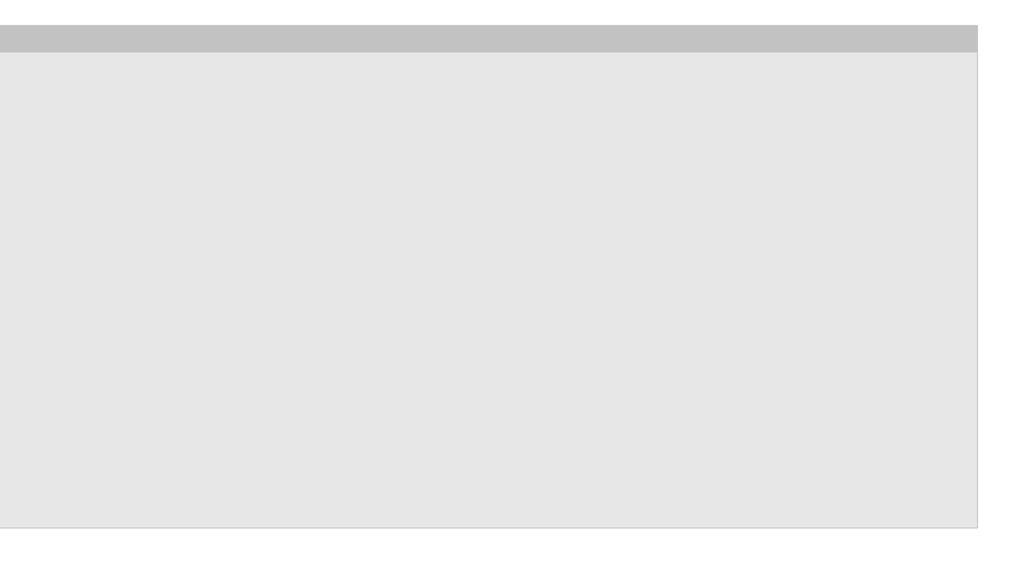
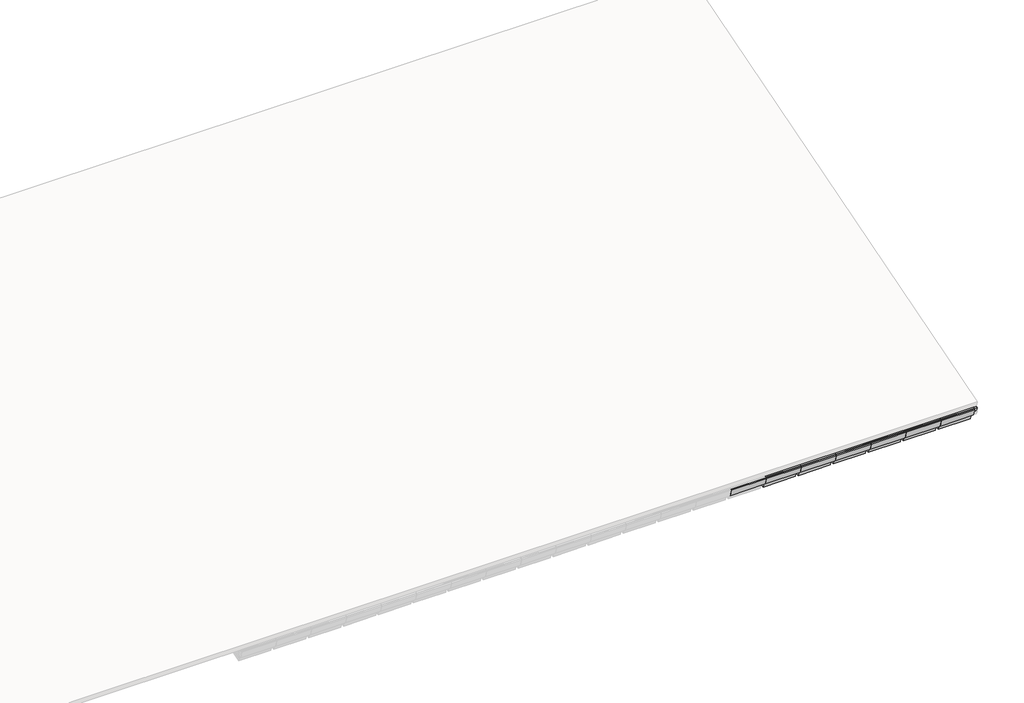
# One storey, part 44 of 57: 77 members, 45 plates.
"""IFC4 building model written with IfcOpenShell, lengths in millimetres."""

from ifc_helpers import new_model, si_unit, origin, place, context, project, spatial, transform, mapped, element, save
from components import rectangular_mullion_59984080, rectangular_mullion_71c73389, rectangular_mullion_e3e5c75d, rectangular_mullion_2d2423ea, rectangular_mullion_4162b89b, rectangular_mullion_883ae41b, rectangular_mullion_caibro_e4384bba, rectangular_mullion_caibro_f55aeefc, rectangular_mullion_caibro_7d910be2, rectangular_mullion_caibro_0993a3cf, empty_system_panel_vazio_178faf58, empty_system_panel_vazio_2c78850d

model = new_model("IFC4")

# Units and contexts
model_context = context("Model", 3, world=origin())
ifc_project = project(units=[si_unit("LENGTHUNIT", "METRE", prefix="MILLI")], contexts=[model_context])

# Site, building, storey
site = spatial("IfcSite", under=ifc_project)
building = spatial("IfcBuilding", under=site)
storey = spatial("IfcBuildingStorey", under=building, Name="Nível 2", Elevation=4100.0)

# Members
placement = place(None, origin())
rectangular_mullion_shape = rectangular_mullion_59984080(model_context)
element("IfcMember", 1, ObjectType="Rectangular Mullion : Ripa", at=placement, inside=storey, context=model_context, shape_type="MappedRepresentation", body=[
    mapped(rectangular_mullion_shape, transform((39391.1303069, 7422.2287521, 3376.7178042), x_axis=(0.0, 0.9578262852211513, 0.2873478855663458), y_axis=(0.0, 0.2873478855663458, -0.9578262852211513), z_axis=(-1.0, 0.0, 0.0))),
])
element("IfcMember", 2, ObjectType="Rectangular Mullion : Ripa", at=placement, inside=storey, context=model_context, shape_type="MappedRepresentation", body=[
    mapped(rectangular_mullion_shape, transform((39988.1850634, 7422.2287521, 3376.7178042), x_axis=(0.0, 0.9578262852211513, 0.2873478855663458), y_axis=(0.0, 0.2873478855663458, -0.9578262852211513), z_axis=(-1.0, 0.0, 0.0))),
])
element("IfcMember", 3, ObjectType="Rectangular Mullion : Ripa", at=placement, inside=storey, context=model_context, shape_type="MappedRepresentation", body=[
    mapped(rectangular_mullion_shape, transform((40585.2398198, 7422.2287521, 3376.7178042), x_axis=(0.0, 0.9578262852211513, 0.2873478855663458), y_axis=(0.0, 0.2873478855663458, -0.9578262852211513), z_axis=(-1.0, 0.0, 0.0))),
])
element("IfcMember", 4, ObjectType="Rectangular Mullion : Ripa", at=placement, inside=storey, context=model_context, shape_type="MappedRepresentation", body=[
    mapped(rectangular_mullion_shape, transform((41182.2945762, 7422.2287521, 3376.7178042), x_axis=(0.0, 0.9578262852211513, 0.2873478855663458), y_axis=(0.0, 0.2873478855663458, -0.9578262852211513), z_axis=(-1.0, 0.0, 0.0))),
])
element("IfcMember", 5, ObjectType="Rectangular Mullion : Ripa", at=placement, inside=storey, context=model_context, shape_type="MappedRepresentation", body=[
    mapped(rectangular_mullion_shape, transform((41779.3493326, 7422.2287521, 3376.7178042), x_axis=(0.0, 0.9578262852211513, 0.2873478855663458), y_axis=(0.0, 0.2873478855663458, -0.9578262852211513), z_axis=(-1.0, 0.0, 0.0))),
])
element("IfcMember", 6, ObjectType="Rectangular Mullion : Ripa", at=placement, inside=storey, context=model_context, shape_type="MappedRepresentation", body=[
    mapped(rectangular_mullion_shape, transform((39391.1303069, 7792.4060108, 3487.7709818), x_axis=(0.0, 0.9578262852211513, 0.2873478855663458), y_axis=(0.0, 0.2873478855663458, -0.9578262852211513), z_axis=(-1.0, 0.0, 0.0))),
])
element("IfcMember", 7, ObjectType="Rectangular Mullion : Ripa", at=placement, inside=storey, context=model_context, shape_type="MappedRepresentation", body=[
    mapped(rectangular_mullion_shape, transform((39988.1850634, 7792.4060108, 3487.7709818), x_axis=(0.0, 0.9578262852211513, 0.2873478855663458), y_axis=(0.0, 0.2873478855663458, -0.9578262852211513), z_axis=(-1.0, 0.0, 0.0))),
])
element("IfcMember", 8, ObjectType="Rectangular Mullion : Ripa", at=placement, inside=storey, context=model_context, shape_type="MappedRepresentation", body=[
    mapped(rectangular_mullion_shape, transform((40585.2398198, 7792.4060108, 3487.7709818), x_axis=(0.0, 0.9578262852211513, 0.2873478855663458), y_axis=(0.0, 0.2873478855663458, -0.9578262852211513), z_axis=(-1.0, 0.0, 0.0))),
])
element("IfcMember", 9, ObjectType="Rectangular Mullion : Ripa", at=placement, inside=storey, context=model_context, shape_type="MappedRepresentation", body=[
    mapped(rectangular_mullion_shape, transform((41182.2945762, 7792.4060108, 3487.7709818), x_axis=(0.0, 0.9578262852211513, 0.2873478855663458), y_axis=(0.0, 0.2873478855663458, -0.9578262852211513), z_axis=(-1.0, 0.0, 0.0))),
])
element("IfcMember", 10, ObjectType="Rectangular Mullion : Ripa", at=placement, inside=storey, context=model_context, shape_type="MappedRepresentation", body=[
    mapped(rectangular_mullion_shape, transform((41779.3493326, 7792.4060108, 3487.7709818), x_axis=(0.0, 0.9578262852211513, 0.2873478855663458), y_axis=(0.0, 0.2873478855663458, -0.9578262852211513), z_axis=(-1.0, 0.0, 0.0))),
])
element("IfcMember", 11, ObjectType="Rectangular Mullion : Ripa", at=placement, inside=storey, context=model_context, shape_type="MappedRepresentation", body=[
    mapped(rectangular_mullion_shape, transform((32226.4732298, 8162.5832694, 3598.8241594), x_axis=(0.0, 0.9578262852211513, 0.2873478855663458), y_axis=(0.0, 0.2873478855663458, -0.9578262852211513), z_axis=(-1.0, 0.0, 0.0))),
])
element("IfcMember", 12, ObjectType="Rectangular Mullion : Ripa", at=placement, inside=storey, context=model_context, shape_type="MappedRepresentation", body=[
    mapped(rectangular_mullion_shape, transform((32823.5279863, 8162.5832694, 3598.8241594), x_axis=(0.0, 0.9578262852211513, 0.2873478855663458), y_axis=(0.0, 0.2873478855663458, -0.9578262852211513), z_axis=(-1.0, 0.0, 0.0))),
])
element("IfcMember", 13, ObjectType="Rectangular Mullion : Ripa", at=placement, inside=storey, context=model_context, shape_type="MappedRepresentation", body=[
    mapped(rectangular_mullion_shape, transform((33420.5827427, 8162.5832694, 3598.8241594), x_axis=(0.0, 0.9578262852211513, 0.2873478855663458), y_axis=(0.0, 0.2873478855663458, -0.9578262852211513), z_axis=(-1.0, 0.0, 0.0))),
])
element("IfcMember", 14, ObjectType="Rectangular Mullion : Ripa", at=placement, inside=storey, context=model_context, shape_type="MappedRepresentation", body=[
    mapped(rectangular_mullion_shape, transform((32226.4732298, 8532.7605281, 3709.877337), x_axis=(0.0, 0.9578262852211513, 0.2873478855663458), y_axis=(0.0, 0.2873478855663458, -0.9578262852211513), z_axis=(-1.0, 0.0, 0.0))),
])
element("IfcMember", 15, ObjectType="Rectangular Mullion : Ripa", at=placement, inside=storey, context=model_context, shape_type="MappedRepresentation", body=[
    mapped(rectangular_mullion_shape, transform((32823.5279863, 8532.7605281, 3709.877337), x_axis=(0.0, 0.9578262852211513, 0.2873478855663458), y_axis=(0.0, 0.2873478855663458, -0.9578262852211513), z_axis=(-1.0, 0.0, 0.0))),
])
element("IfcMember", 16, ObjectType="Rectangular Mullion : Ripa", at=placement, inside=storey, context=model_context, shape_type="MappedRepresentation", body=[
    mapped(rectangular_mullion_shape, transform((33420.5827427, 8532.7605281, 3709.877337), x_axis=(0.0, 0.9578262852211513, 0.2873478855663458), y_axis=(0.0, 0.2873478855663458, -0.9578262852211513), z_axis=(-1.0, 0.0, 0.0))),
])
element("IfcMember", 17, ObjectType="Rectangular Mullion : Ripa", at=placement, inside=storey, context=model_context, shape_type="MappedRepresentation", body=[
    mapped(rectangular_mullion_shape, transform((32226.4732298, 8902.9377868, 3820.9305146), x_axis=(0.0, 0.9578262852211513, 0.2873478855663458), y_axis=(0.0, 0.2873478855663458, -0.9578262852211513), z_axis=(-1.0, 0.0, 0.0))),
])
element("IfcMember", 18, ObjectType="Rectangular Mullion : Ripa", at=placement, inside=storey, context=model_context, shape_type="MappedRepresentation", body=[
    mapped(rectangular_mullion_shape, transform((32823.5279863, 8902.9377868, 3820.9305146), x_axis=(0.0, 0.9578262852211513, 0.2873478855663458), y_axis=(0.0, 0.2873478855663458, -0.9578262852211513), z_axis=(-1.0, 0.0, 0.0))),
])
element("IfcMember", 19, ObjectType="Rectangular Mullion : Ripa", at=placement, inside=storey, context=model_context, shape_type="MappedRepresentation", body=[
    mapped(rectangular_mullion_shape, transform((33420.5827427, 8902.9377868, 3820.9305146), x_axis=(0.0, 0.9578262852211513, 0.2873478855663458), y_axis=(0.0, 0.2873478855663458, -0.9578262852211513), z_axis=(-1.0, 0.0, 0.0))),
])
element("IfcMember", 20, ObjectType="Rectangular Mullion : Ripa", at=placement, inside=storey, context=model_context, shape_type="MappedRepresentation", body=[
    mapped(rectangular_mullion_shape, transform((32226.4732298, 9273.1150454, 3931.9836922), x_axis=(0.0, 0.9578262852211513, 0.2873478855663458), y_axis=(0.0, 0.2873478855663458, -0.9578262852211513), z_axis=(-1.0, 0.0, 0.0))),
])
element("IfcMember", 21, ObjectType="Rectangular Mullion : Ripa", at=placement, inside=storey, context=model_context, shape_type="MappedRepresentation", body=[
    mapped(rectangular_mullion_shape, transform((32823.5279863, 9273.1150454, 3931.9836922), x_axis=(0.0, 0.9578262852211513, 0.2873478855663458), y_axis=(0.0, 0.2873478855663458, -0.9578262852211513), z_axis=(-1.0, 0.0, 0.0))),
])
element("IfcMember", 22, ObjectType="Rectangular Mullion : Ripa", at=placement, inside=storey, context=model_context, shape_type="MappedRepresentation", body=[
    mapped(rectangular_mullion_shape, transform((33420.5827427, 9273.1150454, 3931.9836922), x_axis=(0.0, 0.9578262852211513, 0.2873478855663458), y_axis=(0.0, 0.2873478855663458, -0.9578262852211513), z_axis=(-1.0, 0.0, 0.0))),
])
element("IfcMember", 23, ObjectType="Rectangular Mullion : Ripa", at=placement, inside=storey, context=model_context, shape_type="MappedRepresentation", body=[
    mapped(rectangular_mullion_shape, transform((32226.4732298, 9643.2923041, 4043.0368698), x_axis=(0.0, 0.9578262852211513, 0.2873478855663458), y_axis=(0.0, 0.2873478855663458, -0.9578262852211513), z_axis=(-1.0, 0.0, 0.0))),
])
element("IfcMember", 24, ObjectType="Rectangular Mullion : Ripa", at=placement, inside=storey, context=model_context, shape_type="MappedRepresentation", body=[
    mapped(rectangular_mullion_shape, transform((32823.5279863, 9643.2923041, 4043.0368698), x_axis=(0.0, 0.9578262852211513, 0.2873478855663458), y_axis=(0.0, 0.2873478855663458, -0.9578262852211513), z_axis=(-1.0, 0.0, 0.0))),
])
element("IfcMember", 25, ObjectType="Rectangular Mullion : Ripa", at=placement, inside=storey, context=model_context, shape_type="MappedRepresentation", body=[
    mapped(rectangular_mullion_shape, transform((33420.5827427, 9643.2923041, 4043.0368698), x_axis=(0.0, 0.9578262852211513, 0.2873478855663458), y_axis=(0.0, 0.2873478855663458, -0.9578262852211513), z_axis=(-1.0, 0.0, 0.0))),
])
rectangular_mullion_2_shape = rectangular_mullion_71c73389(model_context)
element("IfcMember", 26, ObjectType="Rectangular Mullion : Ripa", at=placement, inside=storey, context=model_context, shape_type="MappedRepresentation", body=[
    mapped(rectangular_mullion_2_shape, transform((42326.4040894, 7004.1601792, 3251.2972323), x_axis=(0.0, -0.9578262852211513, -0.2873478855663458), y_axis=(0.0, 0.2873478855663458, -0.9578262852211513), z_axis=(1.0, 0.0, 0.0))),
])
rectangular_mullion_3_shape = rectangular_mullion_e3e5c75d(model_context)
element("IfcMember", 27, ObjectType="Rectangular Mullion : Ripa", at=placement, inside=storey, context=model_context, shape_type="MappedRepresentation", body=[
    mapped(rectangular_mullion_3_shape, transform((39366.1303069, 7004.1601792, 3251.2972323), x_axis=(0.0, -0.9578262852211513, -0.2873478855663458), y_axis=(0.0, 0.2873478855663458, -0.9578262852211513), z_axis=(1.0, 0.0, 0.0))),
])
element("IfcMember", 28, ObjectType="Rectangular Mullion : Ripa", at=placement, inside=storey, context=model_context, shape_type="MappedRepresentation", body=[
    mapped(rectangular_mullion_3_shape, transform((39963.1850634, 7004.1601792, 3251.2972323), x_axis=(0.0, -0.9578262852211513, -0.2873478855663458), y_axis=(0.0, 0.2873478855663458, -0.9578262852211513), z_axis=(1.0, 0.0, 0.0))),
])
element("IfcMember", 29, ObjectType="Rectangular Mullion : Ripa", at=placement, inside=storey, context=model_context, shape_type="MappedRepresentation", body=[
    mapped(rectangular_mullion_3_shape, transform((40560.2398198, 7004.1601792, 3251.2972323), x_axis=(0.0, -0.9578262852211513, -0.2873478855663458), y_axis=(0.0, 0.2873478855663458, -0.9578262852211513), z_axis=(1.0, 0.0, 0.0))),
])
element("IfcMember", 30, ObjectType="Rectangular Mullion : Ripa", at=placement, inside=storey, context=model_context, shape_type="MappedRepresentation", body=[
    mapped(rectangular_mullion_3_shape, transform((41157.2945762, 7004.1601792, 3251.2972323), x_axis=(0.0, -0.9578262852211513, -0.2873478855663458), y_axis=(0.0, 0.2873478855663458, -0.9578262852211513), z_axis=(1.0, 0.0, 0.0))),
])
element("IfcMember", 31, ObjectType="Rectangular Mullion : Ripa", at=placement, inside=storey, context=model_context, shape_type="MappedRepresentation", body=[
    mapped(rectangular_mullion_3_shape, transform((41754.3493326, 7004.1601792, 3251.2972323), x_axis=(0.0, -0.9578262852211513, -0.2873478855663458), y_axis=(0.0, 0.2873478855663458, -0.9578262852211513), z_axis=(1.0, 0.0, 0.0))),
])
rectangular_mullion_4_shape = rectangular_mullion_2d2423ea(model_context)
element("IfcMember", 32, ObjectType="Rectangular Mullion : Terça", at=placement, inside=storey, context=model_context, shape_type="MappedRepresentation", body=[
    mapped(rectangular_mullion_4_shape, transform((32226.4732298, 9159.0196393, 3835.1132313), x_axis=(0.0, 0.9578262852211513, 0.2873478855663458), y_axis=(0.0, 0.2873478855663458, -0.9578262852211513), z_axis=(-1.0, 0.0, 0.0))),
])
element("IfcMember", 33, ObjectType="Rectangular Mullion : Terça", at=placement, inside=storey, context=model_context, shape_type="MappedRepresentation", body=[
    mapped(rectangular_mullion_4_shape, transform((32823.5279863, 9159.0196393, 3835.1132313), x_axis=(0.0, 0.9578262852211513, 0.2873478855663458), y_axis=(0.0, 0.2873478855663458, -0.9578262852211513), z_axis=(-1.0, 0.0, 0.0))),
])
element("IfcMember", 34, ObjectType="Rectangular Mullion : Terça", at=placement, inside=storey, context=model_context, shape_type="MappedRepresentation", body=[
    mapped(rectangular_mullion_4_shape, transform((33420.5827427, 9159.0196393, 3835.1132313), x_axis=(0.0, 0.9578262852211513, 0.2873478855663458), y_axis=(0.0, 0.2873478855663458, -0.9578262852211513), z_axis=(-1.0, 0.0, 0.0))),
])
rectangular_mullion_5_shape = rectangular_mullion_4162b89b(model_context)
element("IfcMember", 35, ObjectType="Rectangular Mullion : Terça", at=placement, inside=storey, context=model_context, shape_type="MappedRepresentation", body=[
    mapped(rectangular_mullion_5_shape, transform((42326.4040894, 7004.1601792, 3188.6553932), x_axis=(0.0, -0.9578262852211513, -0.2873478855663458), y_axis=(0.0, 0.2873478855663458, -0.9578262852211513), z_axis=(1.0, 0.0, 0.0))),
])
rectangular_mullion_6_shape = rectangular_mullion_883ae41b(model_context)
element("IfcMember", 36, ObjectType="Rectangular Mullion : Terça", at=placement, inside=storey, context=model_context, shape_type="MappedRepresentation", body=[
    mapped(rectangular_mullion_6_shape, transform((38769.0755505, 7004.1601792, 3188.6553932), x_axis=(0.0, -0.9578262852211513, -0.2873478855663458), y_axis=(0.0, 0.2873478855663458, -0.9578262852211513), z_axis=(1.0, 0.0, 0.0))),
])
element("IfcMember", 37, ObjectType="Rectangular Mullion : Terça", at=placement, inside=storey, context=model_context, shape_type="MappedRepresentation", body=[
    mapped(rectangular_mullion_6_shape, transform((39366.1303069, 7004.1601792, 3188.6553932), x_axis=(0.0, -0.9578262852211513, -0.2873478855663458), y_axis=(0.0, 0.2873478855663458, -0.9578262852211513), z_axis=(1.0, 0.0, 0.0))),
])
element("IfcMember", 38, ObjectType="Rectangular Mullion : Terça", at=placement, inside=storey, context=model_context, shape_type="MappedRepresentation", body=[
    mapped(rectangular_mullion_6_shape, transform((39963.1850634, 7004.1601792, 3188.6553932), x_axis=(0.0, -0.9578262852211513, -0.2873478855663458), y_axis=(0.0, 0.2873478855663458, -0.9578262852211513), z_axis=(1.0, 0.0, 0.0))),
])
element("IfcMember", 39, ObjectType="Rectangular Mullion : Terça", at=placement, inside=storey, context=model_context, shape_type="MappedRepresentation", body=[
    mapped(rectangular_mullion_6_shape, transform((40560.2398198, 7004.1601792, 3188.6553932), x_axis=(0.0, -0.9578262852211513, -0.2873478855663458), y_axis=(0.0, 0.2873478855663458, -0.9578262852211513), z_axis=(1.0, 0.0, 0.0))),
])
element("IfcMember", 40, ObjectType="Rectangular Mullion : Terça", at=placement, inside=storey, context=model_context, shape_type="MappedRepresentation", body=[
    mapped(rectangular_mullion_6_shape, transform((41157.2945762, 7004.1601792, 3188.6553932), x_axis=(0.0, -0.9578262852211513, -0.2873478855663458), y_axis=(0.0, 0.2873478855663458, -0.9578262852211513), z_axis=(1.0, 0.0, 0.0))),
])
element("IfcMember", 41, ObjectType="Rectangular Mullion : Terça", at=placement, inside=storey, context=model_context, shape_type="MappedRepresentation", body=[
    mapped(rectangular_mullion_6_shape, transform((41754.3493326, 7004.1601792, 3188.6553932), x_axis=(0.0, -0.9578262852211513, -0.2873478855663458), y_axis=(0.0, 0.2873478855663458, -0.9578262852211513), z_axis=(1.0, 0.0, 0.0))),
])
rectangular_mullion_caibro_shape = rectangular_mullion_caibro_e4384bba(model_context)
element("IfcMember", 42, ObjectType="Rectangular Mullion : Caibro", at=placement, inside=storey, context=model_context, shape_type="MappedRepresentation", body=[
    mapped(rectangular_mullion_caibro_shape, transform((39366.1303069, 7422.2287521, 3376.7178042), x_axis=(1.0, 0.0, 0.0), y_axis=(0.0, 0.2873478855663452, -0.9578262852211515), z_axis=(0.0, 0.9578262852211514, 0.28734788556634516))),
])
element("IfcMember", 43, ObjectType="Rectangular Mullion : Caibro", at=placement, inside=storey, context=model_context, shape_type="MappedRepresentation", body=[
    mapped(rectangular_mullion_caibro_shape, transform((39963.1850634, 7422.2287521, 3376.7178042), x_axis=(1.0, 0.0, 0.0), y_axis=(0.0, 0.2873478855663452, -0.9578262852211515), z_axis=(0.0, 0.9578262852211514, 0.28734788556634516))),
])
element("IfcMember", 44, ObjectType="Rectangular Mullion : Caibro", at=placement, inside=storey, context=model_context, shape_type="MappedRepresentation", body=[
    mapped(rectangular_mullion_caibro_shape, transform((40560.2398198, 7422.2287521, 3376.7178042), x_axis=(1.0, 0.0, 0.0), y_axis=(0.0, 0.2873478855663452, -0.9578262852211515), z_axis=(0.0, 0.9578262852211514, 0.28734788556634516))),
])
element("IfcMember", 45, ObjectType="Rectangular Mullion : Caibro", at=placement, inside=storey, context=model_context, shape_type="MappedRepresentation", body=[
    mapped(rectangular_mullion_caibro_shape, transform((41157.2945762, 7422.2287521, 3376.7178042), x_axis=(1.0, 0.0, 0.0), y_axis=(0.0, 0.2873478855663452, -0.9578262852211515), z_axis=(0.0, 0.9578262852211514, 0.28734788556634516))),
])
element("IfcMember", 46, ObjectType="Rectangular Mullion : Caibro", at=placement, inside=storey, context=model_context, shape_type="MappedRepresentation", body=[
    mapped(rectangular_mullion_caibro_shape, transform((41754.3493326, 7422.2287521, 3376.7178042), x_axis=(1.0, 0.0, 0.0), y_axis=(0.0, 0.2873478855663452, -0.9578262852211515), z_axis=(0.0, 0.9578262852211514, 0.28734788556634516))),
])
element("IfcMember", 47, ObjectType="Rectangular Mullion : Caibro", at=placement, inside=storey, context=model_context, shape_type="MappedRepresentation", body=[
    mapped(rectangular_mullion_caibro_shape, transform((32201.4732298, 8162.5832694, 3598.8241594), x_axis=(1.0, 0.0, 0.0), y_axis=(0.0, 0.2873478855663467, -0.9578262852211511), z_axis=(0.0, 0.9578262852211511, 0.2873478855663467))),
])
element("IfcMember", 48, ObjectType="Rectangular Mullion : Caibro", at=placement, inside=storey, context=model_context, shape_type="MappedRepresentation", body=[
    mapped(rectangular_mullion_caibro_shape, transform((32201.4732298, 8532.7605281, 3709.877337), x_axis=(1.0, 0.0, 0.0), y_axis=(0.0, 0.2873478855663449, -0.9578262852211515), z_axis=(0.0, 0.9578262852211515, 0.2873478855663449))),
])
element("IfcMember", 49, ObjectType="Rectangular Mullion : Caibro", at=placement, inside=storey, context=model_context, shape_type="MappedRepresentation", body=[
    mapped(rectangular_mullion_caibro_shape, transform((32201.4732298, 8902.9377868, 3820.9305146), x_axis=(1.0, 0.0, 0.0), y_axis=(0.0, 0.2873478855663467, -0.9578262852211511), z_axis=(0.0, 0.9578262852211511, 0.2873478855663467))),
])
element("IfcMember", 50, ObjectType="Rectangular Mullion : Caibro", at=placement, inside=storey, context=model_context, shape_type="MappedRepresentation", body=[
    mapped(rectangular_mullion_caibro_shape, transform((32201.4732298, 9273.1150454, 3931.9836922), x_axis=(1.0, 0.0, 0.0), y_axis=(0.0, 0.2873478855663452, -0.9578262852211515), z_axis=(0.0, 0.9578262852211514, 0.28734788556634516))),
])
element("IfcMember", 51, ObjectType="Rectangular Mullion : Caibro", at=placement, inside=storey, context=model_context, shape_type="MappedRepresentation", body=[
    mapped(rectangular_mullion_caibro_shape, transform((32201.4732298, 9643.2923041, 4043.0368698), x_axis=(1.0, 0.0, 0.0), y_axis=(0.0, 0.28734788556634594, -0.9578262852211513), z_axis=(0.0, 0.9578262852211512, 0.2873478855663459))),
])
element("IfcMember", 52, ObjectType="Rectangular Mullion : Caibro", at=placement, inside=storey, context=model_context, shape_type="MappedRepresentation", body=[
    mapped(rectangular_mullion_caibro_shape, transform((32798.5279863, 8162.5832694, 3598.8241594), x_axis=(1.0, 0.0, 0.0), y_axis=(0.0, 0.2873478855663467, -0.9578262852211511), z_axis=(0.0, 0.9578262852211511, 0.2873478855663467))),
])
element("IfcMember", 53, ObjectType="Rectangular Mullion : Caibro", at=placement, inside=storey, context=model_context, shape_type="MappedRepresentation", body=[
    mapped(rectangular_mullion_caibro_shape, transform((32798.5279863, 8532.7605281, 3709.877337), x_axis=(1.0, 0.0, 0.0), y_axis=(0.0, 0.2873478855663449, -0.9578262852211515), z_axis=(0.0, 0.9578262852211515, 0.2873478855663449))),
])
element("IfcMember", 54, ObjectType="Rectangular Mullion : Caibro", at=placement, inside=storey, context=model_context, shape_type="MappedRepresentation", body=[
    mapped(rectangular_mullion_caibro_shape, transform((32798.5279863, 8902.9377868, 3820.9305146), x_axis=(1.0, 0.0, 0.0), y_axis=(0.0, 0.2873478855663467, -0.9578262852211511), z_axis=(0.0, 0.9578262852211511, 0.2873478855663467))),
])
element("IfcMember", 55, ObjectType="Rectangular Mullion : Caibro", at=placement, inside=storey, context=model_context, shape_type="MappedRepresentation", body=[
    mapped(rectangular_mullion_caibro_shape, transform((32798.5279863, 9273.1150454, 3931.9836922), x_axis=(1.0, 0.0, 0.0), y_axis=(0.0, 0.2873478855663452, -0.9578262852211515), z_axis=(0.0, 0.9578262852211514, 0.28734788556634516))),
])
element("IfcMember", 56, ObjectType="Rectangular Mullion : Caibro", at=placement, inside=storey, context=model_context, shape_type="MappedRepresentation", body=[
    mapped(rectangular_mullion_caibro_shape, transform((32798.5279863, 9643.2923041, 4043.0368698), x_axis=(1.0, 0.0, 0.0), y_axis=(0.0, 0.28734788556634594, -0.9578262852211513), z_axis=(0.0, 0.9578262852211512, 0.2873478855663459))),
])
element("IfcMember", 57, ObjectType="Rectangular Mullion : Caibro", at=placement, inside=storey, context=model_context, shape_type="MappedRepresentation", body=[
    mapped(rectangular_mullion_caibro_shape, transform((33395.5827427, 8162.5832694, 3598.8241594), x_axis=(1.0, 0.0, 0.0), y_axis=(0.0, 0.28734788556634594, -0.9578262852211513), z_axis=(0.0, 0.9578262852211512, 0.2873478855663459))),
])
element("IfcMember", 58, ObjectType="Rectangular Mullion : Caibro", at=placement, inside=storey, context=model_context, shape_type="MappedRepresentation", body=[
    mapped(rectangular_mullion_caibro_shape, transform((33395.5827427, 8532.7605281, 3709.877337), x_axis=(1.0, 0.0, 0.0), y_axis=(0.0, 0.2873478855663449, -0.9578262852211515), z_axis=(0.0, 0.9578262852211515, 0.2873478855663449))),
])
element("IfcMember", 59, ObjectType="Rectangular Mullion : Caibro", at=placement, inside=storey, context=model_context, shape_type="MappedRepresentation", body=[
    mapped(rectangular_mullion_caibro_shape, transform((33395.5827427, 8902.9377868, 3820.9305146), x_axis=(1.0, 0.0, 0.0), y_axis=(0.0, 0.2873478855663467, -0.9578262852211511), z_axis=(0.0, 0.9578262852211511, 0.2873478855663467))),
])
element("IfcMember", 60, ObjectType="Rectangular Mullion : Caibro", at=placement, inside=storey, context=model_context, shape_type="MappedRepresentation", body=[
    mapped(rectangular_mullion_caibro_shape, transform((33395.5827427, 9273.1150454, 3931.9836922), x_axis=(1.0, 0.0, 0.0), y_axis=(0.0, 0.2873478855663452, -0.9578262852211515), z_axis=(0.0, 0.9578262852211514, 0.28734788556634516))),
])
element("IfcMember", 61, ObjectType="Rectangular Mullion : Caibro", at=placement, inside=storey, context=model_context, shape_type="MappedRepresentation", body=[
    mapped(rectangular_mullion_caibro_shape, transform((33395.5827427, 9643.2923041, 4043.0368698), x_axis=(1.0, 0.0, 0.0), y_axis=(0.0, 0.2873478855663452, -0.9578262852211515), z_axis=(0.0, 0.9578262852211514, 0.28734788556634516))),
])
element("IfcMember", 62, ObjectType="Rectangular Mullion : Caibro", at=placement, inside=storey, context=model_context, shape_type="MappedRepresentation", body=[
    mapped(rectangular_mullion_caibro_shape, transform((33992.6374991, 8162.5832694, 3598.8241594), x_axis=(1.0, 0.0, 0.0), y_axis=(0.0, 0.28734788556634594, -0.9578262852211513), z_axis=(0.0, 0.9578262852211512, 0.2873478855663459))),
])
element("IfcMember", 63, ObjectType="Rectangular Mullion : Caibro", at=placement, inside=storey, context=model_context, shape_type="MappedRepresentation", body=[
    mapped(rectangular_mullion_caibro_shape, transform((33992.6374991, 8532.7605281, 3709.877337), x_axis=(1.0, 0.0, 0.0), y_axis=(0.0, 0.2873478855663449, -0.9578262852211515), z_axis=(0.0, 0.9578262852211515, 0.2873478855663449))),
])
element("IfcMember", 64, ObjectType="Rectangular Mullion : Caibro", at=placement, inside=storey, context=model_context, shape_type="MappedRepresentation", body=[
    mapped(rectangular_mullion_caibro_shape, transform((33992.6374991, 8902.9377868, 3820.9305146), x_axis=(1.0, 0.0, 0.0), y_axis=(0.0, 0.2873478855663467, -0.9578262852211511), z_axis=(0.0, 0.9578262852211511, 0.2873478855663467))),
])
element("IfcMember", 65, ObjectType="Rectangular Mullion : Caibro", at=placement, inside=storey, context=model_context, shape_type="MappedRepresentation", body=[
    mapped(rectangular_mullion_caibro_shape, transform((33992.6374991, 9273.1150454, 3931.9836922), x_axis=(1.0, 0.0, 0.0), y_axis=(0.0, 0.2873478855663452, -0.9578262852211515), z_axis=(0.0, 0.9578262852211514, 0.28734788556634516))),
])
element("IfcMember", 66, ObjectType="Rectangular Mullion : Caibro", at=placement, inside=storey, context=model_context, shape_type="MappedRepresentation", body=[
    mapped(rectangular_mullion_caibro_shape, transform((33992.6374991, 9643.2923041, 4043.0368698), x_axis=(1.0, 0.0, 0.0), y_axis=(0.0, 0.2873478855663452, -0.9578262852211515), z_axis=(0.0, 0.9578262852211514, 0.28734788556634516))),
])
element("IfcMember", 67, ObjectType="Rectangular Mullion : Caibro", at=placement, inside=storey, context=model_context, shape_type="MappedRepresentation", body=[
    mapped(rectangular_mullion_caibro_shape, transform((39366.1303069, 7792.4060108, 3487.7709818), x_axis=(1.0, 0.0, 0.0), y_axis=(0.0, 0.2873478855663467, -0.9578262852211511), z_axis=(0.0, 0.9578262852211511, 0.2873478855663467))),
])
element("IfcMember", 68, ObjectType="Rectangular Mullion : Caibro", at=placement, inside=storey, context=model_context, shape_type="MappedRepresentation", body=[
    mapped(rectangular_mullion_caibro_shape, transform((39963.1850634, 7792.4060108, 3487.7709818), x_axis=(1.0, 0.0, 0.0), y_axis=(0.0, 0.2873478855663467, -0.9578262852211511), z_axis=(0.0, 0.9578262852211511, 0.2873478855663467))),
])
element("IfcMember", 69, ObjectType="Rectangular Mullion : Caibro", at=placement, inside=storey, context=model_context, shape_type="MappedRepresentation", body=[
    mapped(rectangular_mullion_caibro_shape, transform((40560.2398198, 7792.4060108, 3487.7709818), x_axis=(1.0, 0.0, 0.0), y_axis=(0.0, 0.2873478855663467, -0.9578262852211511), z_axis=(0.0, 0.9578262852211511, 0.2873478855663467))),
])
element("IfcMember", 70, ObjectType="Rectangular Mullion : Caibro", at=placement, inside=storey, context=model_context, shape_type="MappedRepresentation", body=[
    mapped(rectangular_mullion_caibro_shape, transform((41157.2945762, 7792.4060108, 3487.7709818), x_axis=(1.0, 0.0, 0.0), y_axis=(0.0, 0.2873478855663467, -0.9578262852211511), z_axis=(0.0, 0.9578262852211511, 0.2873478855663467))),
])
element("IfcMember", 71, ObjectType="Rectangular Mullion : Caibro", at=placement, inside=storey, context=model_context, shape_type="MappedRepresentation", body=[
    mapped(rectangular_mullion_caibro_shape, transform((41754.3493326, 7792.4060108, 3487.7709818), x_axis=(1.0, 0.0, 0.0), y_axis=(0.0, 0.2873478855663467, -0.9578262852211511), z_axis=(0.0, 0.9578262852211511, 0.2873478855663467))),
])
rectangular_mullion_caibro_2_shape = rectangular_mullion_caibro_f55aeefc(model_context)
element("IfcMember", 72, ObjectType="Rectangular Mullion : Caibro", at=placement, inside=storey, context=model_context, shape_type="MappedRepresentation", body=[
    mapped(rectangular_mullion_caibro_2_shape, transform((42376.4040894, 7422.2287521, 3376.7178042), x_axis=(1.0, 0.0, 0.0), y_axis=(0.0, 0.2873478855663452, -0.9578262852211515), z_axis=(0.0, 0.9578262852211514, 0.28734788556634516))),
])
rectangular_mullion_caibro_3_shape = rectangular_mullion_caibro_7d910be2(model_context)
element("IfcMember", 73, ObjectType="Rectangular Mullion : Caibro", at=placement, inside=storey, context=model_context, shape_type="MappedRepresentation", body=[
    mapped(rectangular_mullion_caibro_3_shape, transform((42376.4040894, 7792.4060108, 3487.7709818), x_axis=(1.0, 0.0, 0.0), y_axis=(0.0, 0.2873478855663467, -0.9578262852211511), z_axis=(0.0, 0.9578262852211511, 0.2873478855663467))),
])
rectangular_mullion_caibro_4_shape = rectangular_mullion_caibro_0993a3cf(model_context)
element("IfcMember", 74, ObjectType="Rectangular Mullion : Caibro", at=placement, inside=storey, context=model_context, shape_type="MappedRepresentation", body=[
    mapped(rectangular_mullion_caibro_4_shape, transform((32201.4732298, 9159.0196393, 3835.1132313), x_axis=(1.0, 0.0, 0.0), y_axis=(0.0, 0.2873478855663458, -0.9578262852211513), z_axis=(0.0, 0.9578262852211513, 0.2873478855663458))),
])
element("IfcMember", 75, ObjectType="Rectangular Mullion : Caibro", at=placement, inside=storey, context=model_context, shape_type="MappedRepresentation", body=[
    mapped(rectangular_mullion_caibro_4_shape, transform((32798.5279863, 9159.0196393, 3835.1132313), x_axis=(1.0, 0.0, 0.0), y_axis=(0.0, 0.2873478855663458, -0.9578262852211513), z_axis=(0.0, 0.9578262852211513, 0.2873478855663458))),
])
element("IfcMember", 76, ObjectType="Rectangular Mullion : Caibro", at=placement, inside=storey, context=model_context, shape_type="MappedRepresentation", body=[
    mapped(rectangular_mullion_caibro_4_shape, transform((33395.5827427, 9159.0196393, 3835.1132313), x_axis=(1.0, 0.0, 0.0), y_axis=(0.0, 0.2873478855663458, -0.9578262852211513), z_axis=(0.0, 0.9578262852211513, 0.2873478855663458))),
])
element("IfcMember", 77, ObjectType="Rectangular Mullion : Caibro", at=placement, inside=storey, context=model_context, shape_type="MappedRepresentation", body=[
    mapped(rectangular_mullion_caibro_4_shape, transform((33992.6374991, 9159.0196393, 3835.1132313), x_axis=(1.0, 0.0, 0.0), y_axis=(0.0, 0.2873478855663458, -0.9578262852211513), z_axis=(0.0, 0.9578262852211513, 0.2873478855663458))),
])

# Plates
empty_system_panel_vazio_shape = empty_system_panel_vazio_178faf58(model_context)
element("IfcPlate", 78, ObjectType="Empty System Panel : Vazio", at=placement, inside=storey, context=model_context, shape_type="MappedRepresentation", body=[
    mapped(empty_system_panel_vazio_shape, transform((39067.6029287, 7052.0514934, 3265.6646266), x_axis=(1.0, 0.0, 0.0), y_axis=(0.0, 0.2873478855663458, -0.9578262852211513), z_axis=(0.0, 0.9578262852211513, 0.2873478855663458))),
])
element("IfcPlate", 79, ObjectType="Empty System Panel : Vazio", at=placement, inside=storey, context=model_context, shape_type="MappedRepresentation", body=[
    mapped(empty_system_panel_vazio_shape, transform((39664.6576851, 7052.0514934, 3265.6646266), x_axis=(1.0, 0.0, 0.0), y_axis=(0.0, 0.2873478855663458, -0.9578262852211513), z_axis=(0.0, 0.9578262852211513, 0.2873478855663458))),
])
element("IfcPlate", 80, ObjectType="Empty System Panel : Vazio", at=placement, inside=storey, context=model_context, shape_type="MappedRepresentation", body=[
    mapped(empty_system_panel_vazio_shape, transform((40261.7124416, 7052.0514934, 3265.6646266), x_axis=(1.0, 0.0, 0.0), y_axis=(0.0, 0.2873478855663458, -0.9578262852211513), z_axis=(0.0, 0.9578262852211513, 0.2873478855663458))),
])
element("IfcPlate", 81, ObjectType="Empty System Panel : Vazio", at=placement, inside=storey, context=model_context, shape_type="MappedRepresentation", body=[
    mapped(empty_system_panel_vazio_shape, transform((40858.767198, 7052.0514934, 3265.6646266), x_axis=(1.0, 0.0, 0.0), y_axis=(0.0, 0.2873478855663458, -0.9578262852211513), z_axis=(0.0, 0.9578262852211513, 0.2873478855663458))),
])
element("IfcPlate", 82, ObjectType="Empty System Panel : Vazio", at=placement, inside=storey, context=model_context, shape_type="MappedRepresentation", body=[
    mapped(empty_system_panel_vazio_shape, transform((41455.8219544, 7052.0514934, 3265.6646266), x_axis=(1.0, 0.0, 0.0), y_axis=(0.0, 0.2873478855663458, -0.9578262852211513), z_axis=(0.0, 0.9578262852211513, 0.2873478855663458))),
])
element("IfcPlate", 83, ObjectType="Empty System Panel : Vazio", at=placement, inside=storey, context=model_context, shape_type="MappedRepresentation", body=[
    mapped(empty_system_panel_vazio_shape, transform((42052.876711, 7052.0514934, 3265.6646266), x_axis=(1.0, 0.0, 0.0), y_axis=(0.0, 0.2873478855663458, -0.9578262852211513), z_axis=(0.0, 0.9578262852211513, 0.2873478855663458))),
])
element("IfcPlate", 84, ObjectType="Empty System Panel : Vazio", at=placement, inside=storey, context=model_context, shape_type="MappedRepresentation", body=[
    mapped(empty_system_panel_vazio_shape, transform((39067.6029287, 7422.2287521, 3376.7178042), x_axis=(1.0, 0.0, 0.0), y_axis=(0.0, 0.2873478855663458, -0.9578262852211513), z_axis=(0.0, 0.9578262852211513, 0.2873478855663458))),
])
element("IfcPlate", 85, ObjectType="Empty System Panel : Vazio", at=placement, inside=storey, context=model_context, shape_type="MappedRepresentation", body=[
    mapped(empty_system_panel_vazio_shape, transform((39664.6576851, 7422.2287521, 3376.7178042), x_axis=(1.0, 0.0, 0.0), y_axis=(0.0, 0.2873478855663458, -0.9578262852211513), z_axis=(0.0, 0.9578262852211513, 0.2873478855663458))),
])
element("IfcPlate", 86, ObjectType="Empty System Panel : Vazio", at=placement, inside=storey, context=model_context, shape_type="MappedRepresentation", body=[
    mapped(empty_system_panel_vazio_shape, transform((40261.7124416, 7422.2287521, 3376.7178042), x_axis=(1.0, 0.0, 0.0), y_axis=(0.0, 0.2873478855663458, -0.9578262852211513), z_axis=(0.0, 0.9578262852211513, 0.2873478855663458))),
])
element("IfcPlate", 87, ObjectType="Empty System Panel : Vazio", at=placement, inside=storey, context=model_context, shape_type="MappedRepresentation", body=[
    mapped(empty_system_panel_vazio_shape, transform((40858.767198, 7422.2287521, 3376.7178042), x_axis=(1.0, 0.0, 0.0), y_axis=(0.0, 0.2873478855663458, -0.9578262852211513), z_axis=(0.0, 0.9578262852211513, 0.2873478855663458))),
])
element("IfcPlate", 88, ObjectType="Empty System Panel : Vazio", at=placement, inside=storey, context=model_context, shape_type="MappedRepresentation", body=[
    mapped(empty_system_panel_vazio_shape, transform((41455.8219544, 7422.2287521, 3376.7178042), x_axis=(1.0, 0.0, 0.0), y_axis=(0.0, 0.2873478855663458, -0.9578262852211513), z_axis=(0.0, 0.9578262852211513, 0.2873478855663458))),
])
element("IfcPlate", 89, ObjectType="Empty System Panel : Vazio", at=placement, inside=storey, context=model_context, shape_type="MappedRepresentation", body=[
    mapped(empty_system_panel_vazio_shape, transform((42052.876711, 7422.2287521, 3376.7178042), x_axis=(1.0, 0.0, 0.0), y_axis=(0.0, 0.2873478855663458, -0.9578262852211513), z_axis=(0.0, 0.9578262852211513, 0.2873478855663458))),
])
element("IfcPlate", 90, ObjectType="Empty System Panel : Vazio", at=placement, inside=storey, context=model_context, shape_type="MappedRepresentation", body=[
    mapped(empty_system_panel_vazio_shape, transform((39067.6029287, 7792.4060108, 3487.7709818), x_axis=(1.0, 0.0, 0.0), y_axis=(0.0, 0.2873478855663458, -0.9578262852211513), z_axis=(0.0, 0.9578262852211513, 0.2873478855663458))),
])
element("IfcPlate", 91, ObjectType="Empty System Panel : Vazio", at=placement, inside=storey, context=model_context, shape_type="MappedRepresentation", body=[
    mapped(empty_system_panel_vazio_shape, transform((39664.6576851, 7792.4060108, 3487.7709818), x_axis=(1.0, 0.0, 0.0), y_axis=(0.0, 0.2873478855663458, -0.9578262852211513), z_axis=(0.0, 0.9578262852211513, 0.2873478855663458))),
])
element("IfcPlate", 92, ObjectType="Empty System Panel : Vazio", at=placement, inside=storey, context=model_context, shape_type="MappedRepresentation", body=[
    mapped(empty_system_panel_vazio_shape, transform((40261.7124416, 7792.4060108, 3487.7709818), x_axis=(1.0, 0.0, 0.0), y_axis=(0.0, 0.2873478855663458, -0.9578262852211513), z_axis=(0.0, 0.9578262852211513, 0.2873478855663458))),
])
element("IfcPlate", 93, ObjectType="Empty System Panel : Vazio", at=placement, inside=storey, context=model_context, shape_type="MappedRepresentation", body=[
    mapped(empty_system_panel_vazio_shape, transform((40858.767198, 7792.4060108, 3487.7709818), x_axis=(1.0, 0.0, 0.0), y_axis=(0.0, 0.2873478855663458, -0.9578262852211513), z_axis=(0.0, 0.9578262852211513, 0.2873478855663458))),
])
element("IfcPlate", 94, ObjectType="Empty System Panel : Vazio", at=placement, inside=storey, context=model_context, shape_type="MappedRepresentation", body=[
    mapped(empty_system_panel_vazio_shape, transform((41455.8219544, 7792.4060108, 3487.7709818), x_axis=(1.0, 0.0, 0.0), y_axis=(0.0, 0.2873478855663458, -0.9578262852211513), z_axis=(0.0, 0.9578262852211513, 0.2873478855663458))),
])
element("IfcPlate", 95, ObjectType="Empty System Panel : Vazio", at=placement, inside=storey, context=model_context, shape_type="MappedRepresentation", body=[
    mapped(empty_system_panel_vazio_shape, transform((42052.876711, 7792.4060108, 3487.7709818), x_axis=(1.0, 0.0, 0.0), y_axis=(0.0, 0.2873478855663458, -0.9578262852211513), z_axis=(0.0, 0.9578262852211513, 0.2873478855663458))),
])
element("IfcPlate", 96, ObjectType="Empty System Panel : Vazio", at=placement, inside=storey, context=model_context, shape_type="MappedRepresentation", body=[
    mapped(empty_system_panel_vazio_shape, transform((32500.000608, 8162.5832694, 3598.8241594), x_axis=(1.0, 0.0, 0.0), y_axis=(0.0, 0.2873478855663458, -0.9578262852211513), z_axis=(0.0, 0.9578262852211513, 0.2873478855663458))),
])
element("IfcPlate", 97, ObjectType="Empty System Panel : Vazio", at=placement, inside=storey, context=model_context, shape_type="MappedRepresentation", body=[
    mapped(empty_system_panel_vazio_shape, transform((33097.0553645, 8162.5832694, 3598.8241594), x_axis=(1.0, 0.0, 0.0), y_axis=(0.0, 0.2873478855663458, -0.9578262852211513), z_axis=(0.0, 0.9578262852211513, 0.2873478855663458))),
])
element("IfcPlate", 98, ObjectType="Empty System Panel : Vazio", at=placement, inside=storey, context=model_context, shape_type="MappedRepresentation", body=[
    mapped(empty_system_panel_vazio_shape, transform((33694.1101209, 8162.5832694, 3598.8241594), x_axis=(1.0, 0.0, 0.0), y_axis=(0.0, 0.2873478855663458, -0.9578262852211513), z_axis=(0.0, 0.9578262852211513, 0.2873478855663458))),
])
element("IfcPlate", 99, ObjectType="Empty System Panel : Vazio", at=placement, inside=storey, context=model_context, shape_type="MappedRepresentation", body=[
    mapped(empty_system_panel_vazio_shape, transform((34291.1648773, 8162.5832694, 3598.8241594), x_axis=(1.0, 0.0, 0.0), y_axis=(0.0, 0.2873478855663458, -0.9578262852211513), z_axis=(0.0, 0.9578262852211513, 0.2873478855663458))),
])
element("IfcPlate", 100, ObjectType="Empty System Panel : Vazio", at=placement, inside=storey, context=model_context, shape_type="MappedRepresentation", body=[
    mapped(empty_system_panel_vazio_shape, transform((34888.2196337, 8162.5832694, 3598.8241594), x_axis=(1.0, 0.0, 0.0), y_axis=(0.0, 0.2873478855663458, -0.9578262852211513), z_axis=(0.0, 0.9578262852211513, 0.2873478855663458))),
])
element("IfcPlate", 101, ObjectType="Empty System Panel : Vazio", at=placement, inside=storey, context=model_context, shape_type="MappedRepresentation", body=[
    mapped(empty_system_panel_vazio_shape, transform((32500.000608, 8532.7605281, 3709.877337), x_axis=(1.0, 0.0, 0.0), y_axis=(0.0, 0.2873478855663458, -0.9578262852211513), z_axis=(0.0, 0.9578262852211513, 0.2873478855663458))),
])
element("IfcPlate", 102, ObjectType="Empty System Panel : Vazio", at=placement, inside=storey, context=model_context, shape_type="MappedRepresentation", body=[
    mapped(empty_system_panel_vazio_shape, transform((33097.0553645, 8532.7605281, 3709.877337), x_axis=(1.0, 0.0, 0.0), y_axis=(0.0, 0.2873478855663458, -0.9578262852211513), z_axis=(0.0, 0.9578262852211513, 0.2873478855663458))),
])
element("IfcPlate", 103, ObjectType="Empty System Panel : Vazio", at=placement, inside=storey, context=model_context, shape_type="MappedRepresentation", body=[
    mapped(empty_system_panel_vazio_shape, transform((33694.1101209, 8532.7605281, 3709.877337), x_axis=(1.0, 0.0, 0.0), y_axis=(0.0, 0.2873478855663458, -0.9578262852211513), z_axis=(0.0, 0.9578262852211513, 0.2873478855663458))),
])
element("IfcPlate", 104, ObjectType="Empty System Panel : Vazio", at=placement, inside=storey, context=model_context, shape_type="MappedRepresentation", body=[
    mapped(empty_system_panel_vazio_shape, transform((34291.1648773, 8532.7605281, 3709.877337), x_axis=(1.0, 0.0, 0.0), y_axis=(0.0, 0.2873478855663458, -0.9578262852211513), z_axis=(0.0, 0.9578262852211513, 0.2873478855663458))),
])
element("IfcPlate", 105, ObjectType="Empty System Panel : Vazio", at=placement, inside=storey, context=model_context, shape_type="MappedRepresentation", body=[
    mapped(empty_system_panel_vazio_shape, transform((32500.000608, 8902.9377868, 3820.9305146), x_axis=(1.0, 0.0, 0.0), y_axis=(0.0, 0.2873478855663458, -0.9578262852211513), z_axis=(0.0, 0.9578262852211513, 0.2873478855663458))),
])
element("IfcPlate", 106, ObjectType="Empty System Panel : Vazio", at=placement, inside=storey, context=model_context, shape_type="MappedRepresentation", body=[
    mapped(empty_system_panel_vazio_shape, transform((33097.0553645, 8902.9377868, 3820.9305146), x_axis=(1.0, 0.0, 0.0), y_axis=(0.0, 0.2873478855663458, -0.9578262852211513), z_axis=(0.0, 0.9578262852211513, 0.2873478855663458))),
])
element("IfcPlate", 107, ObjectType="Empty System Panel : Vazio", at=placement, inside=storey, context=model_context, shape_type="MappedRepresentation", body=[
    mapped(empty_system_panel_vazio_shape, transform((33694.1101209, 8902.9377868, 3820.9305146), x_axis=(1.0, 0.0, 0.0), y_axis=(0.0, 0.2873478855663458, -0.9578262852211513), z_axis=(0.0, 0.9578262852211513, 0.2873478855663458))),
])
element("IfcPlate", 108, ObjectType="Empty System Panel : Vazio", at=placement, inside=storey, context=model_context, shape_type="MappedRepresentation", body=[
    mapped(empty_system_panel_vazio_shape, transform((32500.000608, 9273.1150454, 3931.9836922), x_axis=(1.0, 0.0, 0.0), y_axis=(0.0, 0.2873478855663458, -0.9578262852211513), z_axis=(0.0, 0.9578262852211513, 0.2873478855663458))),
])
element("IfcPlate", 109, ObjectType="Empty System Panel : Vazio", at=placement, inside=storey, context=model_context, shape_type="MappedRepresentation", body=[
    mapped(empty_system_panel_vazio_shape, transform((33097.0553645, 9273.1150454, 3931.9836922), x_axis=(1.0, 0.0, 0.0), y_axis=(0.0, 0.2873478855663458, -0.9578262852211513), z_axis=(0.0, 0.9578262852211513, 0.2873478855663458))),
])
element("IfcPlate", 110, ObjectType="Empty System Panel : Vazio", at=placement, inside=storey, context=model_context, shape_type="MappedRepresentation", body=[
    mapped(empty_system_panel_vazio_shape, transform((33694.1101209, 9273.1150454, 3931.9836922), x_axis=(1.0, 0.0, 0.0), y_axis=(0.0, 0.2873478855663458, -0.9578262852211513), z_axis=(0.0, 0.9578262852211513, 0.2873478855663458))),
])
element("IfcPlate", 111, ObjectType="Empty System Panel : Vazio", at=placement, inside=storey, context=model_context, shape_type="MappedRepresentation", body=[
    mapped(empty_system_panel_vazio_shape, transform((32500.000608, 9643.2923041, 4043.0368698), x_axis=(1.0, 0.0, 0.0), y_axis=(0.0, 0.2873478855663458, -0.9578262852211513), z_axis=(0.0, 0.9578262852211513, 0.2873478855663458))),
])
element("IfcPlate", 112, ObjectType="Empty System Panel : Vazio", at=placement, inside=storey, context=model_context, shape_type="MappedRepresentation", body=[
    mapped(empty_system_panel_vazio_shape, transform((33097.0553645, 9643.2923041, 4043.0368698), x_axis=(1.0, 0.0, 0.0), y_axis=(0.0, 0.2873478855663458, -0.9578262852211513), z_axis=(0.0, 0.9578262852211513, 0.2873478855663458))),
])
element("IfcPlate", 113, ObjectType="Empty System Panel : Vazio", at=placement, inside=storey, context=model_context, shape_type="MappedRepresentation", body=[
    mapped(empty_system_panel_vazio_shape, transform((33694.1101209, 9643.2923041, 4043.0368698), x_axis=(1.0, 0.0, 0.0), y_axis=(0.0, 0.2873478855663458, -0.9578262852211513), z_axis=(0.0, 0.9578262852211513, 0.2873478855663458))),
])
empty_system_panel_vazio_2_shape = empty_system_panel_vazio_2c78850d(model_context)
element("IfcPlate", 114, ObjectType="Empty System Panel : Vazio", at=placement, inside=storey, context=model_context, shape_type="MappedRepresentation", body=[
    mapped(empty_system_panel_vazio_2_shape, transform((39067.6029287, 7061.6297563, 3205.8962664), x_axis=(1.0, 0.0, 0.0), y_axis=(0.0, 0.2873478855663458, -0.9578262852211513), z_axis=(0.0, 0.9578262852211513, 0.2873478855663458))),
])
element("IfcPlate", 115, ObjectType="Empty System Panel : Vazio", at=placement, inside=storey, context=model_context, shape_type="MappedRepresentation", body=[
    mapped(empty_system_panel_vazio_2_shape, transform((39664.6576851, 7061.6297563, 3205.8962664), x_axis=(1.0, 0.0, 0.0), y_axis=(0.0, 0.2873478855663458, -0.9578262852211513), z_axis=(0.0, 0.9578262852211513, 0.2873478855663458))),
])
element("IfcPlate", 116, ObjectType="Empty System Panel : Vazio", at=placement, inside=storey, context=model_context, shape_type="MappedRepresentation", body=[
    mapped(empty_system_panel_vazio_2_shape, transform((40261.7124416, 7061.6297563, 3205.8962664), x_axis=(1.0, 0.0, 0.0), y_axis=(0.0, 0.2873478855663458, -0.9578262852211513), z_axis=(0.0, 0.9578262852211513, 0.2873478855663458))),
])
element("IfcPlate", 117, ObjectType="Empty System Panel : Vazio", at=placement, inside=storey, context=model_context, shape_type="MappedRepresentation", body=[
    mapped(empty_system_panel_vazio_2_shape, transform((40858.767198, 7061.6297563, 3205.8962664), x_axis=(1.0, 0.0, 0.0), y_axis=(0.0, 0.2873478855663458, -0.9578262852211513), z_axis=(0.0, 0.9578262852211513, 0.2873478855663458))),
])
element("IfcPlate", 118, ObjectType="Empty System Panel : Vazio", at=placement, inside=storey, context=model_context, shape_type="MappedRepresentation", body=[
    mapped(empty_system_panel_vazio_2_shape, transform((41455.8219544, 7061.6297563, 3205.8962664), x_axis=(1.0, 0.0, 0.0), y_axis=(0.0, 0.2873478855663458, -0.9578262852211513), z_axis=(0.0, 0.9578262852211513, 0.2873478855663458))),
])
element("IfcPlate", 119, ObjectType="Empty System Panel : Vazio", at=placement, inside=storey, context=model_context, shape_type="MappedRepresentation", body=[
    mapped(empty_system_panel_vazio_2_shape, transform((42052.876711, 7061.6297563, 3205.8962664), x_axis=(1.0, 0.0, 0.0), y_axis=(0.0, 0.2873478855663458, -0.9578262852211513), z_axis=(0.0, 0.9578262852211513, 0.2873478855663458))),
])
element("IfcPlate", 120, ObjectType="Empty System Panel : Vazio", at=placement, inside=storey, context=model_context, shape_type="MappedRepresentation", body=[
    mapped(empty_system_panel_vazio_2_shape, transform((32500.000608, 9187.7544279, 3843.7336679), x_axis=(1.0, 0.0, 0.0), y_axis=(0.0, 0.2873478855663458, -0.9578262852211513), z_axis=(0.0, 0.9578262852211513, 0.2873478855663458))),
])
element("IfcPlate", 121, ObjectType="Empty System Panel : Vazio", at=placement, inside=storey, context=model_context, shape_type="MappedRepresentation", body=[
    mapped(empty_system_panel_vazio_2_shape, transform((33097.0553645, 9187.7544279, 3843.7336679), x_axis=(1.0, 0.0, 0.0), y_axis=(0.0, 0.2873478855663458, -0.9578262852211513), z_axis=(0.0, 0.9578262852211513, 0.2873478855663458))),
])
element("IfcPlate", 122, ObjectType="Empty System Panel : Vazio", at=placement, inside=storey, context=model_context, shape_type="MappedRepresentation", body=[
    mapped(empty_system_panel_vazio_2_shape, transform((33694.1101209, 9187.7544279, 3843.7336679), x_axis=(1.0, 0.0, 0.0), y_axis=(0.0, 0.2873478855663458, -0.9578262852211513), z_axis=(0.0, 0.9578262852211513, 0.2873478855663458))),
])

save(model, "model.ifc")
